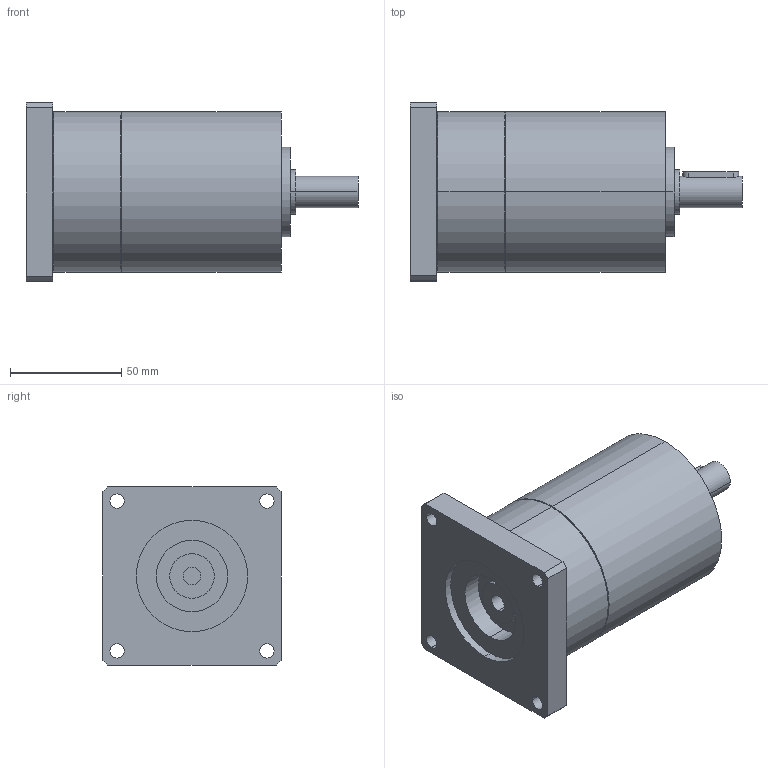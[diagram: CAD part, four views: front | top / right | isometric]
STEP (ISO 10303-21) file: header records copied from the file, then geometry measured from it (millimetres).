
FILE_DESCRIPTION(('CoCreate Modeling STEP Export'),'2;1');
FILE_NAME('GPT75_ig-9-12-16-20-25-28-35-40-50-70-100_14_B14T_8_P27.stp','2014-08-27T13:24:22',(''),(''),'CoCreate Modeling STEP processor for AP214 (Solid Model)','CoCreate Modeling 16.00C 25-Feb-2009 (C) Parametric Technology GmbH','');
FILE_SCHEMA(('AUTOMOTIVE_DESIGN { 1 0 10303 214 1 1 1 1 }'));
Length unit declared in the file: millimetre
Products named in the file (2): GPT75_ig-9-12-16-20-25-28-35-40-50-70-100_14_B14T_8_P27
Assembly tree (1 placements, depth 2):
  GPT75_ig-9-12-16-20-25-28-35-40-50-70-100_14_B14T_8_P27
    GPT75_ig-9-12-16-20-25-28-35-40-50-70-100_14_B14T_8_P27
Bounding box: 149 x 80 x 80 mm (x, y, z)
Volume: 487501.4 mm3; surface area: 46040 mm2
Topology: 1 solids, 1 shells, 69 faces, 163 edges, 110 vertices
Faces by surface type: cylinder 42, plane 23, cone 4
Entity records: 2146 total; most frequent: CARTESIAN_POINT 661, ORIENTED_EDGE 326, DIRECTION 262, EDGE_CURVE 163, VERTEX_POINT 110, AXIS2_PLACEMENT_3D 99, EDGE_LOOP 91, FACE_OUTER_BOUND 69
